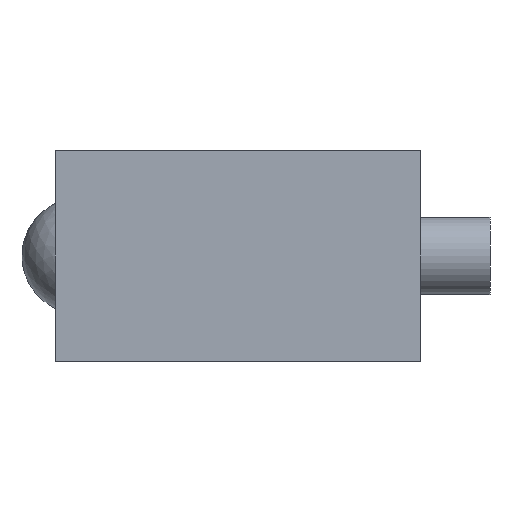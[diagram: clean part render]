
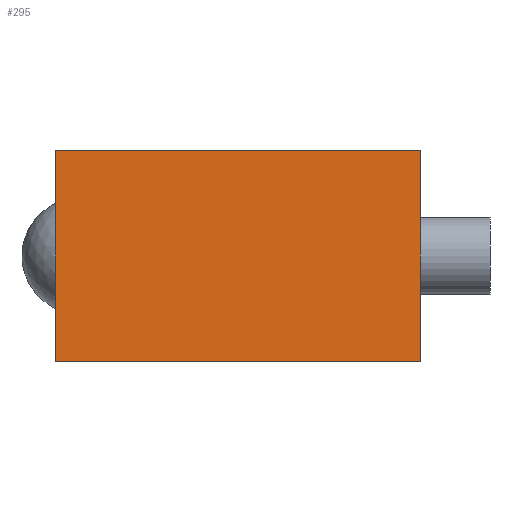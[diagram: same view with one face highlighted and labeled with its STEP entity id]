
A CAD part, left-side view. The second image highlights one B-rep face of the part: STEP entity #295.
In plain terms, the highlighted planar face has unit normal (-1, 0, 0).
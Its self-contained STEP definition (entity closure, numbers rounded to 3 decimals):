
#21=LINE('',#478,#37);
#27=LINE('',#493,#43);
#31=LINE('',#505,#47);
#33=LINE('',#508,#49);
#37=VECTOR('',#402,10.);
#43=VECTOR('',#412,10.);
#47=VECTOR('',#428,10.);
#49=VECTOR('',#432,10.);
#71=PLANE('',#349);
#90=FACE_OUTER_BOUND('',#118,.T.);
#118=EDGE_LOOP('',(#240,#241,#242,#243));
#148=VERTEX_POINT('',#476);
#149=VERTEX_POINT('',#477);
#155=VERTEX_POINT('',#490);
#156=VERTEX_POINT('',#492);
#173=EDGE_CURVE('',#148,#149,#21,.T.);
#180=EDGE_CURVE('',#155,#156,#27,.T.);
#186=EDGE_CURVE('',#156,#148,#31,.T.);
#188=EDGE_CURVE('',#149,#155,#33,.T.);
#240=ORIENTED_EDGE('',*,*,#180,.F.);
#241=ORIENTED_EDGE('',*,*,#188,.F.);
#242=ORIENTED_EDGE('',*,*,#173,.F.);
#243=ORIENTED_EDGE('',*,*,#186,.F.);
#295=ADVANCED_FACE('',(#90),#71,.T.);
#349=AXIS2_PLACEMENT_3D('',#507,#430,#431);
#402=DIRECTION('',(0.,0.,1.));
#412=DIRECTION('',(0.,0.,-1.));
#428=DIRECTION('',(0.,1.,0.));
#430=DIRECTION('center_axis',(-1.,0.,0.));
#431=DIRECTION('ref_axis',(0.,-1.,0.));
#432=DIRECTION('',(0.,-1.,0.));
#476=CARTESIAN_POINT('',(-90.,18.9,-10.9));
#477=CARTESIAN_POINT('',(-90.,18.9,10.9));
#478=CARTESIAN_POINT('',(-90.,18.9,0.));
#490=CARTESIAN_POINT('',(-90.,-18.9,10.9));
#492=CARTESIAN_POINT('',(-90.,-18.9,-10.9));
#493=CARTESIAN_POINT('',(-90.,-18.9,0.));
#505=CARTESIAN_POINT('',(-90.,18.9,-10.9));
#507=CARTESIAN_POINT('Origin',(-90.,18.9,0.));
#508=CARTESIAN_POINT('',(-90.,18.9,10.9));
